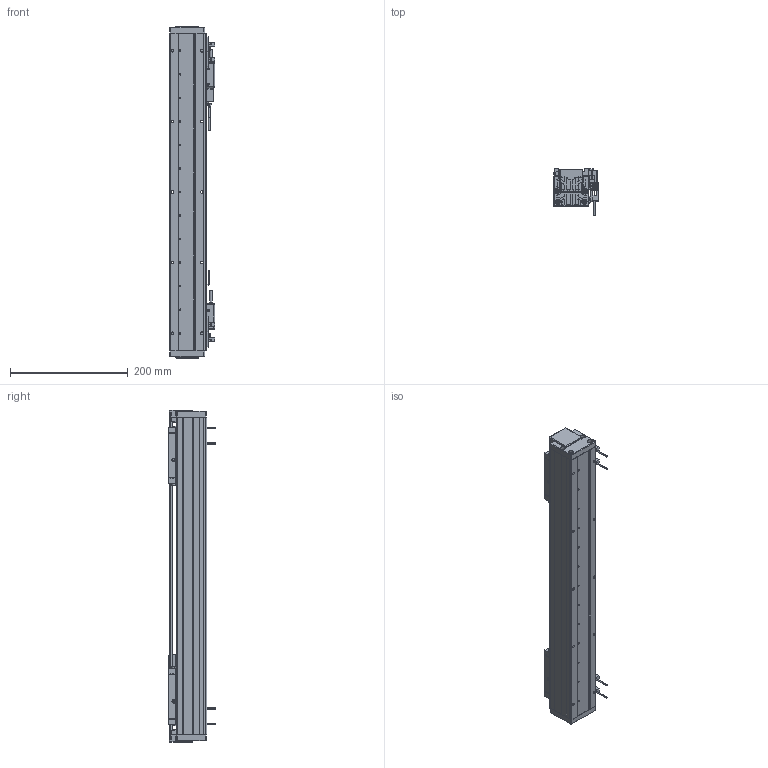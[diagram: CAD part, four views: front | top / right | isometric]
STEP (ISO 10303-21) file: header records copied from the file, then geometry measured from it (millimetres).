
FILE_DESCRIPTION (( 'STEP AP203' ), '1' );
FILE_NAME ('DA-A60-2-B1-T300-C010-0.2 眻盄萇儂.STEP', '2025-08-13T01:12:32', ( '' ), ( '' ), 'SwSTEP 2.0', 'SolidWorks 2019', '' );
FILE_SCHEMA (( 'CONFIG_CONTROL_DESIGN' ));
Length unit declared in the file: millimetre
Products named in the file (27): 葩璃 DA60-HK-DP-01 結え^AU60-V 幗紩賑怢; DA-A60-2-B1-T300-C010-0.2 眻盄萇儂; 葩璃 DA60-XJ-00 砎蝶結輸^DA-A60-2-B1-T60-C010-0.2-N; 复件 纯铜油杯 6x6mm^AU60-V 滚珠滑台; ｸｴｼ BAKM01-W030-C1-TP-0.2 ﾖｱﾏﾟｵ扈巐ｯﾗﾓ^DA-A60-2-B1-T60-C010-0.2-N; 葩璃 XD-U-02  棠掑喜^DA-A60-2-B1-T60-C010-0.2-N; 葩璃 鞠褒情蹟譫 M3^DA-A60-2-B1-T60-C010-0.2-N(GB_FASTENER_NUT_STNAB M3-C); 复件 DA60-GT-T-00 底座钢轨^AU60-L 底座导轨; IU-AU60-L-00 菁釱(540); ｸｴｼ DA60-DMT-DTJ-ZJ-00 ﾖﾐｼ荼ﾁﾊﾍｷﾖｧｼﾜ^DA-A60-2-B1-T60-C010-0.2-N; DA60-B1-HT-B-03 賑雄怢啣; 葩璃 DA60-DG-H-N-00 傷裔^DA-A60-2-B1-T60-C010-0.2-N; 复件 DA60-HC-XJ-01 中间缓冲橡胶^DA-A60-2-B1-T60-C010-0.2-N; DA60-YT-B1-HT-B-01 珨极趙賑雄怢啣; AU60-V 幗紩賑怢-1; 复件 DA60-B1-GT-00 滑块钢轨^DA60-YT-B1-HT-B-01 一体化滑动台板; ｸｴｼ DA-A60-GYP-DMT-00 ｹ箏邵ﾐﾓｦﾆｬ^DA-A60-2-B1-T60-C010-0.2-N(ﾄｬﾈﾏ); DA60-YT-B1-HT-B-01 珨极趙賑雄怢啣-1; 葩璃 AKM01-W030-TRL^DA-A60-2-B1-T60-C010-0.2-N; 葩璃 DMT-010 1米m 0.2M^DA-A60-2-B1-T60-C010-0.2-N; DA60-T-002-00  裔啣; 葩璃 PM-T45^DA-A60-2-B1-T60-C010-0.2-N; 葩璃 DA60-DMT-DTJ-00 黍杅芛盓殤^DA-A60-2-B1-T60-C010-0.2-N; AU60-L 菁釱絳寢; 葩璃 PM-Y65^DA-A60-2-B1-T60-C010-0.2-N; ｸｴｼ DA60-GYP-ZJ-01 ﾖﾐｼ荵箏邵ﾐﾓｦﾆｬ^DA-A60-2-B1-T60-C010-0.2-N(ﾄｬﾈﾏ); AU60-V 幗紩賑怢
Assembly tree (51 placements, depth 4):
  DA-A60-2-B1-T300-C010-0.2 眻盄萇儂
    AU60-L 菁釱絳寢
      IU-AU60-L-00 菁釱(540)
      复件 DA60-GT-T-00 底座钢轨^AU60-L 底座导轨  x2
    AU60-V 幗紩賑怢
      DA60-YT-B1-HT-B-01 珨极趙賑雄怢啣
        DA60-B1-HT-B-03 賑雄怢啣
        复件 DA60-B1-GT-00 滑块钢轨^DA60-YT-B1-HT-B-01 一体化滑动台板  x2
      葩璃 DA60-HK-DP-01 結え^AU60-V 幗紩賑怢  x2
      复件 纯铜油杯 6x6mm^AU60-V 滚珠滑台
    AU60-V 幗紩賑怢-1
      DA60-YT-B1-HT-B-01 珨极趙賑雄怢啣-1
        DA60-B1-HT-B-03 賑雄怢啣
        复件 DA60-B1-GT-00 滑块钢轨^DA60-YT-B1-HT-B-01 一体化滑动台板  x2
      葩璃 DA60-HK-DP-01 結え^AU60-V 幗紩賑怢  x2
      复件 纯铜油杯 6x6mm^AU60-V 滚珠滑台
    ｸｴｼ DA60-DMT-DTJ-ZJ-00 ﾖﾐｼ荼ﾁﾊﾍｷﾖｧｼﾜ^DA-A60-2-B1-T60-C010-0.2-N
    葩璃 PM-Y65^DA-A60-2-B1-T60-C010-0.2-N
    复件 DA60-HC-XJ-01 中间缓冲橡胶^DA-A60-2-B1-T60-C010-0.2-N  x2
    ｸｴｼ DA60-GYP-ZJ-01 ﾖﾐｼ荵箏邵ﾐﾓｦﾆｬ^DA-A60-2-B1-T60-C010-0.2-N(ﾄｬﾈﾏ)
    ｸｴｼ DA-A60-GYP-DMT-00 ｹ箏邵ﾐﾓｦﾆｬ^DA-A60-2-B1-T60-C010-0.2-N(ﾄｬﾈﾏ)  x2
    葩璃 DA60-DMT-DTJ-00 黍杅芛盓殤^DA-A60-2-B1-T60-C010-0.2-N
    葩璃 DMT-010 1米m 0.2M^DA-A60-2-B1-T60-C010-0.2-N  x2
    ｸｴｼ BAKM01-W030-C1-TP-0.2 ﾖｱﾏﾟｵ扈巐ｯﾗﾓ^DA-A60-2-B1-T60-C010-0.2-N  x2
    葩璃 DA60-XJ-00 砎蝶結輸^DA-A60-2-B1-T60-C010-0.2-N  x2
    葩璃 DA60-DG-H-N-00 傷裔^DA-A60-2-B1-T60-C010-0.2-N  x2
    DA60-T-002-00  裔啣
    葩璃 AKM01-W030-TRL^DA-A60-2-B1-T60-C010-0.2-N
    葩璃 PM-T45^DA-A60-2-B1-T60-C010-0.2-N  x4
    葩璃 XD-U-02  棠掑喜^DA-A60-2-B1-T60-C010-0.2-N
    葩璃 鞠褒情蹟譫 M3^DA-A60-2-B1-T60-C010-0.2-N(GB_FASTENER_NUT_STNAB M3-C)  x8
Bounding box: 76.95 x 80 x 564 mm (x, y, z)
Volume: 1363004.2 mm3; surface area: 498003.7 mm2
Topology: 57 solids, 61 shells, 3643 faces, 9233 edges, 5622 vertices
Faces by surface type: plane 1404, cylinder 1291, bspline 592, cone 342, torus 12, sphere 2
Entity records: 78927 total; most frequent: CARTESIAN_POINT 24359, ORIENTED_EDGE 11020, DIRECTION 10117, EDGE_CURVE 5510, AXIS2_PLACEMENT_3D 3518, VERTEX_POINT 3461, VECTOR 3081, LINE 3081
